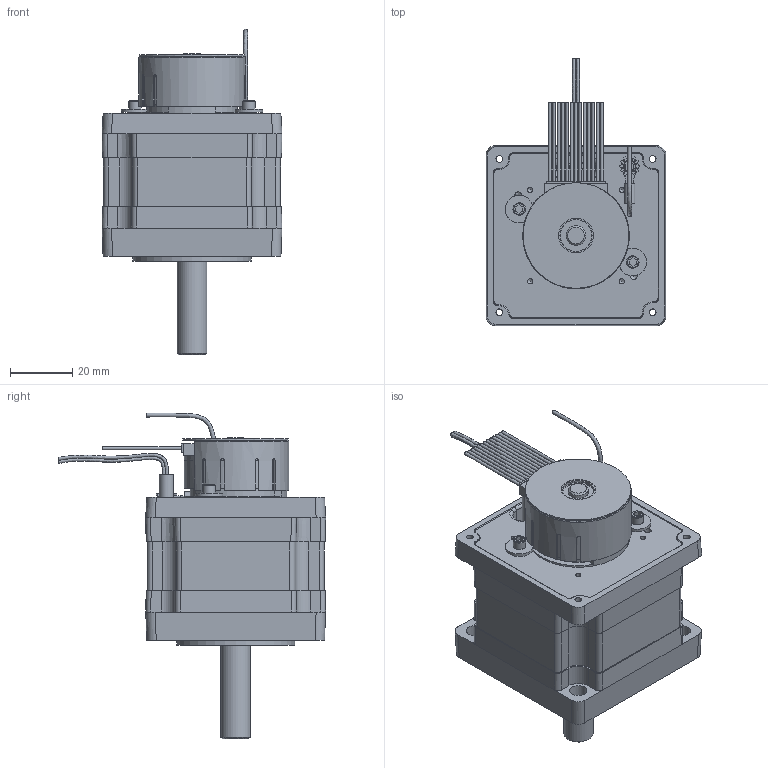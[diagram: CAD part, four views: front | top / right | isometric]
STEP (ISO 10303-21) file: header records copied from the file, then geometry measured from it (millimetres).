
FILE_DESCRIPTION((''),'2;1');
FILE_NAME('C:\CAD_work\Dummy_Modeling_Project_02-12-05\3D MODELS\BE230_FO.stp','2005-12-20T15:26:44',('jevans'),(''),'Autodesk Inventor 10','Autodesk Inventor 10','');
FILE_SCHEMA(('AUTOMOTIVE_DESIGN { 1 0 10303 214 1 1 1 1 }'));
Length unit declared in the file: inch
Products named in the file (1): BE23_FO
Bounding box: 57.95 x 86.08 x 104.99 mm (x, y, z)
Volume: 150317.5 mm3; surface area: 35293.3 mm2
Topology: 7 solids, 7 shells, 487 faces, 1201 edges, 774 vertices
Faces by surface type: plane 276, cylinder 146, bspline 47, cone 12, torus 6
Full cylindrical faces by diameter (mm): 1.016 x13, 1.27 x2, 2.921 x1, 3.02 x1, 3.175 x2, 3.429 x1, 4.013 x3, 4.567 x1, 6.35 x2, 8.89 x2, 9.52 x1, 9.525 x1, 10.16 x1, 10.312 x1, 10.668 x1, 11.176 x1, 21.59 x1, 24.13 x1, 25.403 x1, 26 x1, 27.076 x1, 31.75 x3, 33.02 x2, 34.036 x1, 38.1 x1, 41.732 x1, 47.015 x1
Entity records: 17509 total; most frequent: CARTESIAN_POINT 6358, DIRECTION 2320, ORIENTED_EDGE 2166, EDGE_CURVE 1083, AXIS2_PLACEMENT_3D 838, VERTEX_POINT 744, EDGE_LOOP 648, VECTOR 644
